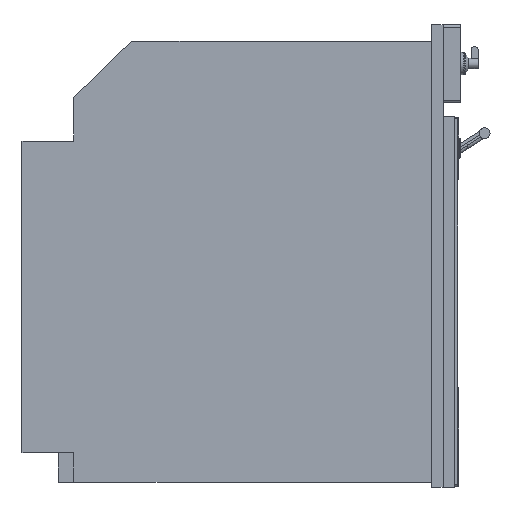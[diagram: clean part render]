
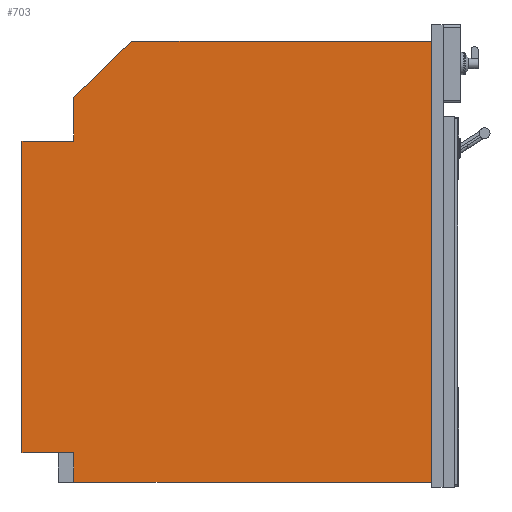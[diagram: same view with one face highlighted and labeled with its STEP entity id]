
A CAD part, front view. The second image highlights one B-rep face of the part: STEP entity #703.
In plain terms, the highlighted planar face has unit normal (0, -1, 0).
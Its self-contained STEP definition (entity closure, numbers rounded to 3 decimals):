
#703=ADVANCED_FACE('',(#1089),#946,.T.);
#946=PLANE('',#4214);
#1089=FACE_OUTER_BOUND('',#1309,.T.);
#1309=EDGE_LOOP('',(#1691,#1692,#1693,#1694,#1695,#1696,#1697,#1698,#1699));
#1691=ORIENTED_EDGE('',*,*,#3047,.T.);
#1692=ORIENTED_EDGE('',*,*,#3034,.T.);
#1693=ORIENTED_EDGE('',*,*,#3045,.T.);
#1694=ORIENTED_EDGE('',*,*,#3054,.T.);
#1695=ORIENTED_EDGE('',*,*,#3067,.T.);
#1696=ORIENTED_EDGE('',*,*,#3057,.T.);
#1697=ORIENTED_EDGE('',*,*,#3061,.T.);
#1698=ORIENTED_EDGE('',*,*,#3064,.T.);
#1699=ORIENTED_EDGE('',*,*,#3066,.T.);
#2662=VERTEX_POINT('',#5843);
#2663=VERTEX_POINT('',#5845);
#2671=VERTEX_POINT('',#5865);
#2673=VERTEX_POINT('',#5871);
#2677=VERTEX_POINT('',#5882);
#2680=VERTEX_POINT('',#5889);
#2681=VERTEX_POINT('',#5891);
#2683=VERTEX_POINT('',#5897);
#2685=VERTEX_POINT('',#5903);
#3034=EDGE_CURVE('',#2663,#2662,#3544,.T.);
#3045=EDGE_CURVE('',#2662,#2671,#3555,.T.);
#3047=EDGE_CURVE('',#2673,#2663,#3557,.T.);
#3054=EDGE_CURVE('',#2671,#2677,#3564,.T.);
#3057=EDGE_CURVE('',#2681,#2680,#3567,.T.);
#3061=EDGE_CURVE('',#2680,#2683,#3571,.T.);
#3064=EDGE_CURVE('',#2683,#2685,#3574,.T.);
#3066=EDGE_CURVE('',#2685,#2673,#3576,.T.);
#3067=EDGE_CURVE('',#2677,#2681,#3577,.T.);
#3544=LINE('',#5844,#3860);
#3555=LINE('',#5866,#3871);
#3557=LINE('',#5870,#3873);
#3564=LINE('',#5883,#3880);
#3567=LINE('',#5890,#3883);
#3571=LINE('',#5898,#3887);
#3574=LINE('',#5904,#3890);
#3576=LINE('',#5907,#3892);
#3577=LINE('',#5909,#3893);
#3860=VECTOR('',#4681,1.);
#3871=VECTOR('',#4696,1.);
#3873=VECTOR('',#4700,1.);
#3880=VECTOR('',#4709,1.);
#3883=VECTOR('',#4714,1.);
#3887=VECTOR('',#4720,1.);
#3890=VECTOR('',#4725,1.);
#3892=VECTOR('',#4729,1.);
#3893=VECTOR('',#4732,1.);
#4214=AXIS2_PLACEMENT_3D('',#5910,#4733,#4734);
#4681=DIRECTION('',(1.,0.,0.));
#4696=DIRECTION('',(0.,0.,-1.));
#4700=DIRECTION('',(0.,0.,-1.));
#4709=DIRECTION('',(1.,0.,0.));
#4714=DIRECTION('',(-1.,0.,0.));
#4720=DIRECTION('',(-0.717,0.,-0.697));
#4725=DIRECTION('',(0.,0.,-1.));
#4729=DIRECTION('',(-1.,0.,0.));
#4732=DIRECTION('',(0.,0.,1.));
#4733=DIRECTION('',(0.,-1.,0.));
#4734=DIRECTION('',(0.,0.,-1.));
#5843=CARTESIAN_POINT('',(-231.,-328.5,-246.5));
#5844=CARTESIAN_POINT('',(-298.,-328.5,-246.5));
#5845=CARTESIAN_POINT('',(-298.,-328.5,-246.5));
#5865=CARTESIAN_POINT('',(-231.,-328.5,-285.));
#5866=CARTESIAN_POINT('',(-231.,-328.5,-246.5));
#5870=CARTESIAN_POINT('',(-298.,-328.5,156.));
#5871=CARTESIAN_POINT('',(-298.,-328.5,156.));
#5882=CARTESIAN_POINT('',(231.,-328.5,-285.));
#5883=CARTESIAN_POINT('',(-231.,-328.5,-285.));
#5889=CARTESIAN_POINT('',(-156.,-328.5,285.));
#5890=CARTESIAN_POINT('',(231.,-328.5,285.));
#5891=CARTESIAN_POINT('',(231.,-328.5,285.));
#5897=CARTESIAN_POINT('',(-231.,-328.5,212.));
#5898=CARTESIAN_POINT('',(-156.,-328.5,285.));
#5903=CARTESIAN_POINT('',(-231.,-328.5,156.));
#5904=CARTESIAN_POINT('',(-231.,-328.5,212.));
#5907=CARTESIAN_POINT('',(-231.,-328.5,156.));
#5909=CARTESIAN_POINT('',(231.,-328.5,-285.));
#5910=CARTESIAN_POINT('',(0.,-328.5,0.));
